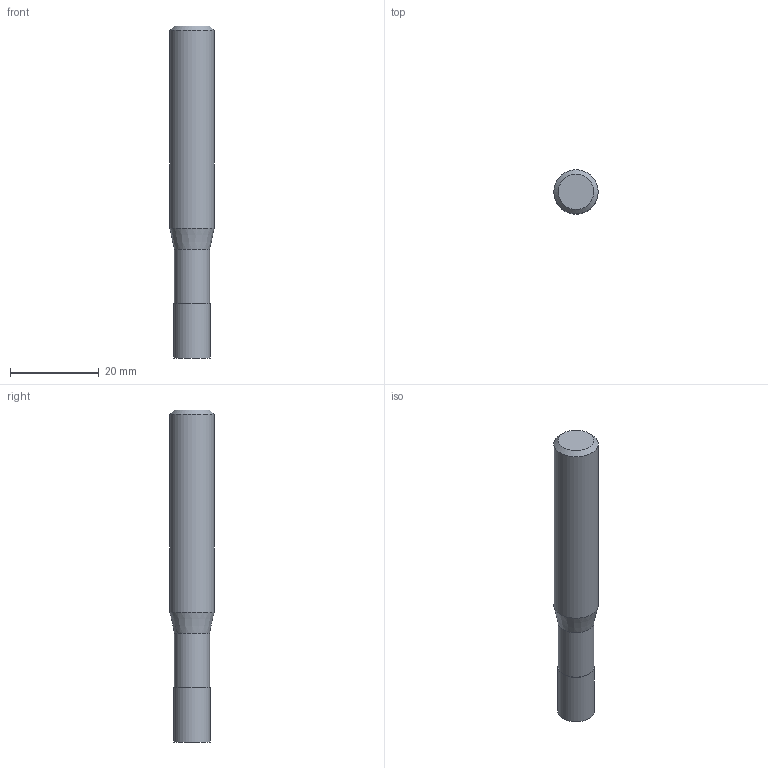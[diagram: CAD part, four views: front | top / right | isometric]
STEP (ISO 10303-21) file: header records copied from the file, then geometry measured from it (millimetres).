
FILE_DESCRIPTION((''),'2;1');
FILE_NAME('C:\Users\nsx150\AppData\Local\Temp\Mastercam 2021\EUJSUNXURU\TEMP.step','2021-04-22T10:29:27',(''),(''),'STEP Write','Mastercam 2021 ... CNC Software, Inc.','');
FILE_SCHEMA(('AUTOMOTIVE_DESIGN'));
Length unit declared in the file: millimetre
Products named in the file (1): None
Bounding box: 10 x 10 x 75 mm (x, y, z)
Volume: 5142.6 mm3; surface area: 2412.3 mm2
Topology: 2 solids, 2 shells, 9 faces, 12 edges, 7 vertices
Faces by surface type: plane 4, cylinder 3, cone 2
Full cylindrical faces by diameter (mm): 8 x1, 8.2 x1, 10 x1
Entity records: 211 total; most frequent: DIRECTION 36, CARTESIAN_POINT 25, AXIS2_PLACEMENT_3D 18, ORIENTED_EDGE 14, EDGE_LOOP 14, STYLED_ITEM 12, ADVANCED_FACE 9, FACE_BOUND 8
